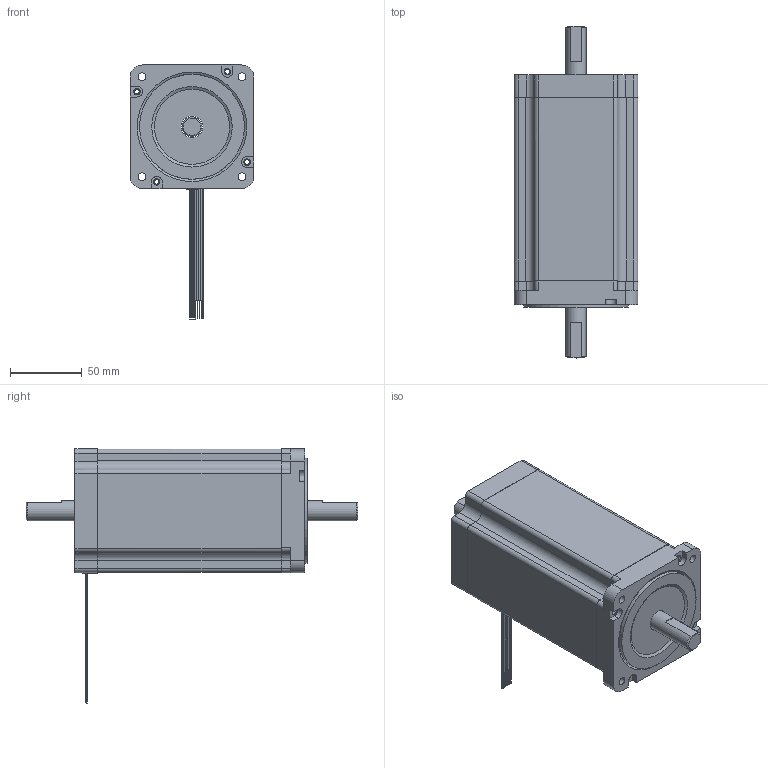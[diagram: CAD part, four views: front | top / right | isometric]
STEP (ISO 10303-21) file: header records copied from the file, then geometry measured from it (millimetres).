
FILE_DESCRIPTION( ('This file contains a STEP AP42 implementation' ,'as created by ZW3D STEP Interface translator.' ,'') ,'2;1' );
FILE_NAME( '34H2160-80-4B-XXX.stp' ,'26 115.141052', (''), ('ZWCAD Software Co.'), 'Version 1.0', 'ZW3D to STEP translator', '' );
FILE_SCHEMA(('AUTOMOTIVE_DESIGN { 1 0 10303 214 1 1 1 1 }'));
Length unit declared in the file: millimetre
Products named in the file (1): 0
Bounding box: 86 x 231 x 176.75 mm (x, y, z)
Volume: 365725.8 mm3; surface area: 146566.6 mm2
Topology: 6 solids, 6 shells, 305 faces, 751 edges, 493 vertices
Faces by surface type: plane 166, cylinder 134, cone 5
Full cylindrical faces by diameter (mm): 3.3 x4, 4.5 x4, 5.08 x4, 5.5 x4, 14 x1, 15 x2, 36 x1, 42 x2, 52.27 x1, 52.273 x1, 73 x1, 78.679 x1, 80 x2
Entity records: 9464 total; most frequent: DIRECTION 1642, CARTESIAN_POINT 1613, ORIENTED_EDGE 1502, EDGE_CURVE 751, AXIS2_PLACEMENT_3D 610, VERTEX_POINT 493, VECTOR 422, LINE 422
